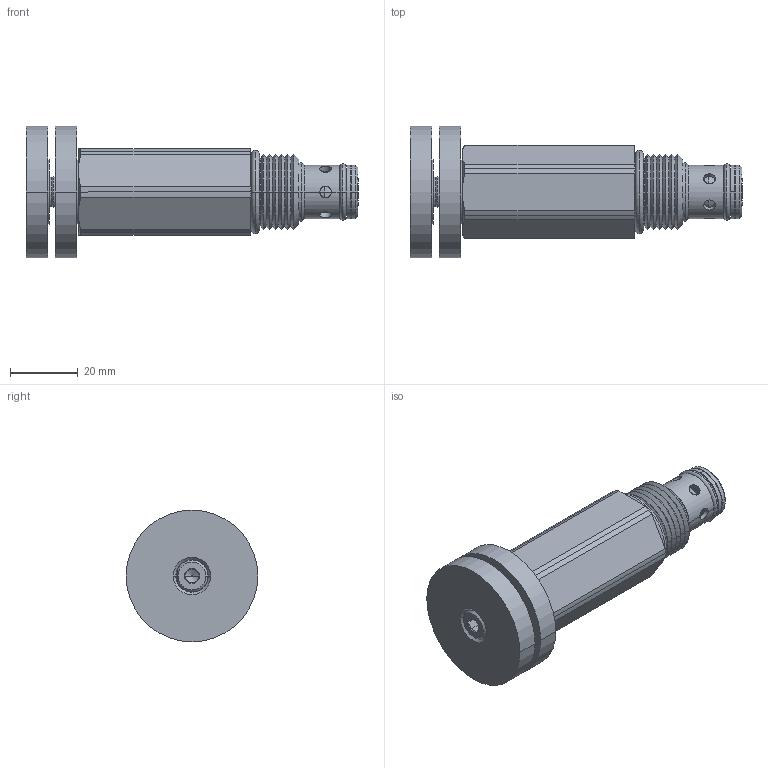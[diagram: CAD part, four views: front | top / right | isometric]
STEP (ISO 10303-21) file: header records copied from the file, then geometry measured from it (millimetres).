
FILE_DESCRIPTION((''),'2;1');
FILE_NAME('U:\Solid model CD\Solid model full\Mechanical\STEP\DERWD0K-3D Full.stp','2008-07-29T09:02:33',('Dan'),(''),'Autodesk Inventor 9','Autodesk Inventor 9','');
FILE_SCHEMA(('AUTOMOTIVE_DESIGN { 1 0 10303 214 1 1 1 1 }'));
Length unit declared in the file: inch
Products named in the file (7): DERWD0K-3D Full; DERWD0K-3D Full1; DERWD0K-3D Full2; DERWD0K-3D Full3; DERWD0K-3D Full4; DERWD0K-3D Full5; DERWD0K-3D Full6
Assembly tree (6 placements, depth 2):
  DERWD0K-3D Full
    DERWD0K-3D Full1
    DERWD0K-3D Full2
    DERWD0K-3D Full3
    DERWD0K-3D Full4
    DERWD0K-3D Full5
    DERWD0K-3D Full6
Bounding box: 97.99 x 38.86 x 38.86 mm (x, y, z)
Volume: 51268.6 mm3; surface area: 16431.6 mm2
Topology: 6 solids, 6 shells, 233 faces, 523 edges, 305 vertices
Faces by surface type: cone 120, cylinder 64, plane 41, torus 8
Entity records: 6965 total; most frequent: CARTESIAN_POINT 1582, DIRECTION 1181, ORIENTED_EDGE 1046, EDGE_CURVE 523, AXIS2_PLACEMENT_3D 492, VERTEX_POINT 305, EDGE_LOOP 260, CIRCLE 246
